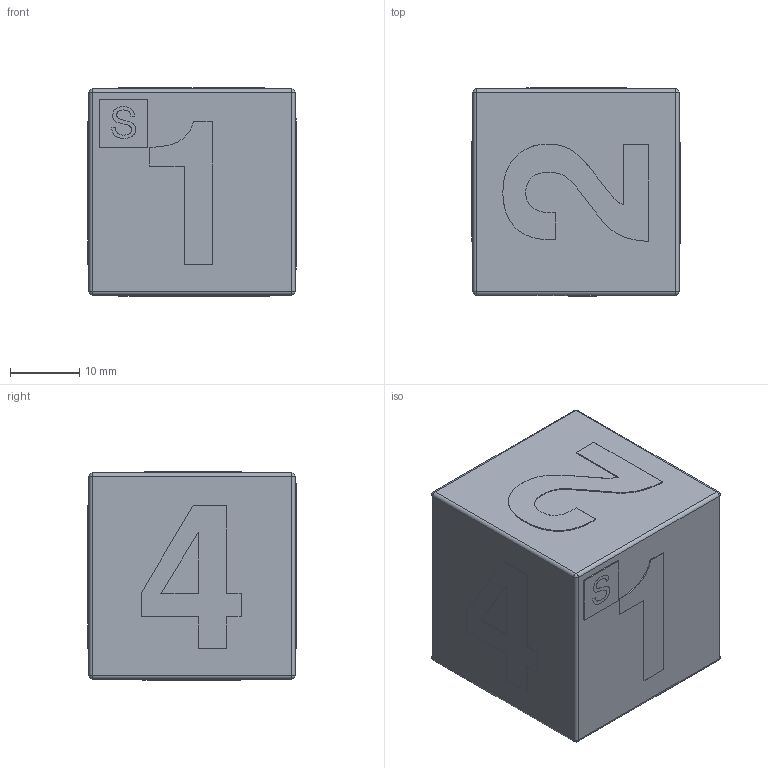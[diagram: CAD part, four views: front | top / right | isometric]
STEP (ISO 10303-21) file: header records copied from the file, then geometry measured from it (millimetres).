
FILE_DESCRIPTION(('Open CASCADE Model'),'2;1');
FILE_NAME('Open CASCADE Shape Model','2025-09-14T20:47:16',('Author'),( 'Open CASCADE'),'Open CASCADE STEP processor 7.8','Open CASCADE 7.8' ,'Unknown');
FILE_SCHEMA(('AUTOMOTIVE_DESIGN { 1 0 10303 214 1 1 1 1 }'));
Length unit declared in the file: millimetre
Products named in the file (20): 9dc581d0-91a3-11f0-88d2-1c1b0deae66b; 9dc58392-91a3-11f0-88d2-1c1b0deae66b; 9dc58392-91a3-11f0-88d2-1c1b0deae66b_part; 9dc8ab62-91a3-11f0-88d2-1c1b0deae66b; 9dc8ab62-91a3-11f0-88d2-1c1b0deae66b_part; 9dcb9886-91a3-11f0-88d2-1c1b0deae66b; 9dcb9886-91a3-11f0-88d2-1c1b0deae66b_part; 9dccf898-91a3-11f0-88d2-1c1b0deae66b; 9dccf898-91a3-11f0-88d2-1c1b0deae66b_part; 9dce3ac8-91a3-11f0-88d2-1c1b0deae66b; 9dce3ac8-91a3-11f0-88d2-1c1b0deae66b_part; 9dcfb510-91a3-11f0-88d2-1c1b0deae66b; 9dcfb510-91a3-11f0-88d2-1c1b0deae66b_part; 9dd17f8a-91a3-11f0-88d2-1c1b0deae66b; 9dd17f8a-91a3-11f0-88d2-1c1b0deae66b_part; 9de3474c-91a3-11f0-88d2-1c1b0deae66b; 9de3474c-91a3-11f0-88d2-1c1b0deae66b_part; 9de348c8-91a3-11f0-88d2-1c1b0deae66b; 9de348c8-91a3-11f0-88d2-1c1b0deae66b_part
Assembly tree (19 placements, depth 4):
  9dc581d0-91a3-11f0-88d2-1c1b0deae66b
    9dc581d0-91a3-11f0-88d2-1c1b0deae66b
      9dc58392-91a3-11f0-88d2-1c1b0deae66b
        9dc58392-91a3-11f0-88d2-1c1b0deae66b_part
      9dc8ab62-91a3-11f0-88d2-1c1b0deae66b
        9dc8ab62-91a3-11f0-88d2-1c1b0deae66b_part
      9dcb9886-91a3-11f0-88d2-1c1b0deae66b
        9dcb9886-91a3-11f0-88d2-1c1b0deae66b_part
      9dccf898-91a3-11f0-88d2-1c1b0deae66b
        9dccf898-91a3-11f0-88d2-1c1b0deae66b_part
      9dce3ac8-91a3-11f0-88d2-1c1b0deae66b
        9dce3ac8-91a3-11f0-88d2-1c1b0deae66b_part
      9dcfb510-91a3-11f0-88d2-1c1b0deae66b
        9dcfb510-91a3-11f0-88d2-1c1b0deae66b_part
      9dd17f8a-91a3-11f0-88d2-1c1b0deae66b
        9dd17f8a-91a3-11f0-88d2-1c1b0deae66b_part
      9de3474c-91a3-11f0-88d2-1c1b0deae66b
        9de3474c-91a3-11f0-88d2-1c1b0deae66b_part
      9de348c8-91a3-11f0-88d2-1c1b0deae66b
        9de348c8-91a3-11f0-88d2-1c1b0deae66b_part
Bounding box: 30 x 30 x 30 mm (x, y, z)
Volume: 26327 mm3; surface area: 7279.7 mm2
Topology: 9 solids, 9 shells, 245 faces, 665 edges, 430 vertices
Faces by surface type: extrusion 142, plane 83, cylinder 12, sphere 8
Entity records: 16710 total; most frequent: CARTESIAN_POINT 4118, DIRECTION 1783, VECTOR 1489, LINE 1347, ORIENTED_EDGE 1314, PCURVE 1314, DEFINITIONAL_REPRESENTATION 1314, B_SPLINE_CURVE_WITH_KNOTS 742
